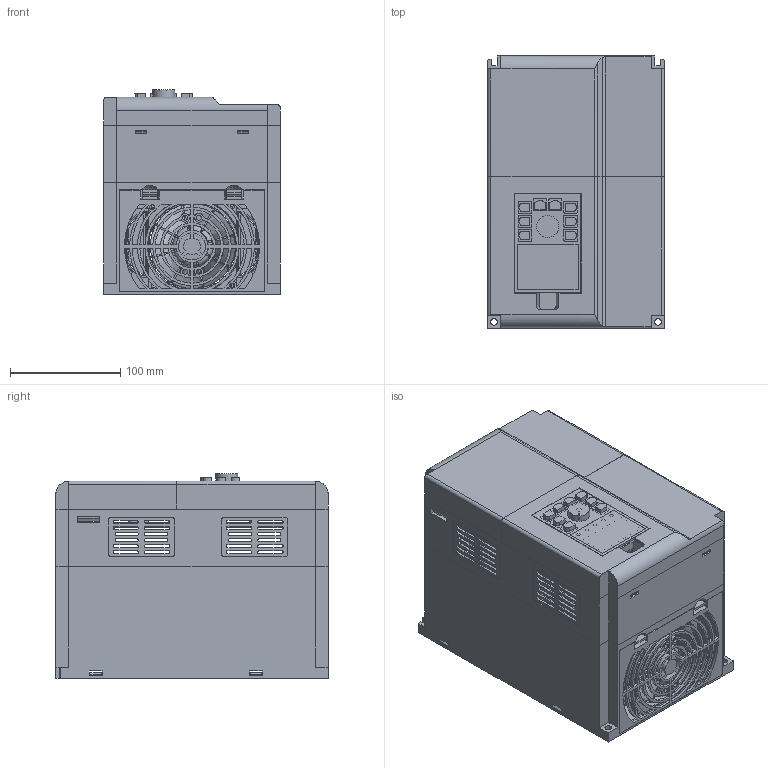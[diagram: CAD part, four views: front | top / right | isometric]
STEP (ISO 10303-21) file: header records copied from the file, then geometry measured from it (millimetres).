
FILE_DESCRIPTION(('STEP AP203'), '1');
FILE_NAME('Âíåø. Ïðåîáðàçîâàòåëü ÷àñòîòû _ LCI-G2.2-2B', '', ('UNSPECIFIED'), ('UNSPECIFIED'), 'C3D Converter', 'C3D Toolkit', '');
FILE_SCHEMA(('CONFIG_CONTROL_DESIGN'));
Length unit declared in the file: millimetre
Products named in the file (15):  LCI-G2.2-3; LCI-G2.2; СБДINS LCI-KP-B; Панель управления; Панель управленния
Assembly tree (14 placements, depth 3):
   LCI-G2.2-3
    LCI-G2.2
    (unnamed)
    LCI-G2.2
    LCI-G2.2
    LCI-G2.2
    LCI-G2.2
    LCI-G2.2
    СБДINS LCI-KP-B
      Панель управления
      Панель управленния
      Панель управления
      Панель управления
      Панель управленния
    LCI-G2.2
Bounding box: 160 x 246.6 x 185 mm (x, y, z)
Volume: 933786.1 mm3; surface area: 751515.1 mm2
Topology: 19 solids, 19 shells, 3825 faces, 10496 edges, 6945 vertices
Faces by surface type: plane 2969, cylinder 782, bspline 52, torus 12, cone 10
Full cylindrical faces by diameter (mm): 1.2 x32, 2 x2, 2.4 x4, 2.5 x11, 2.6 x8, 3 x10, 3.4 x8, 3.5 x10, 4 x8, 4.5 x17, 5 x3, 5.8 x4, 6 x8, 6.2 x1, 7 x1, 8 x18, 8.5 x5, 9 x6, 10 x4, 20 x2, 37 x6
Entity records: 135531 total; most frequent: CARTESIAN_POINT 29536, ORIENTED_EDGE 20640, DIRECTION 19407, EDGE_CURVE 10320, LINE 8479, VECTOR 8479, VERTEX_POINT 6944, AXIS2_PLACEMENT_3D 5464
